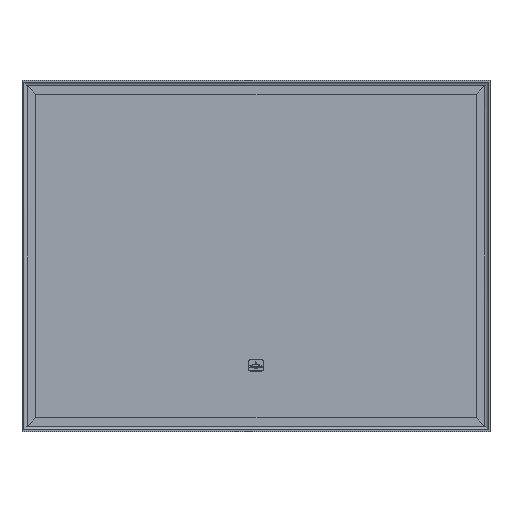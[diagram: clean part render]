
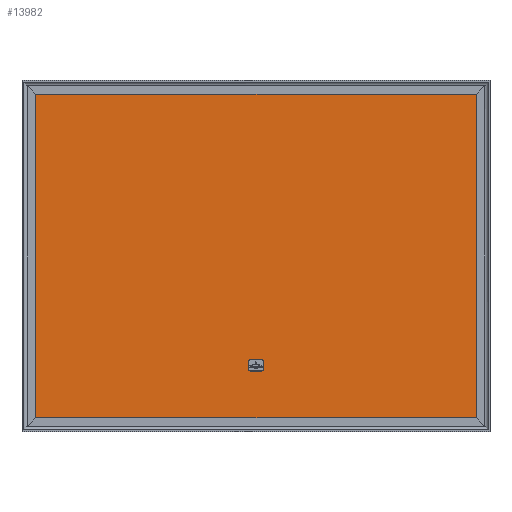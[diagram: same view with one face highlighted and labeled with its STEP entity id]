
A CAD part, front view. The second image highlights one B-rep face of the part: STEP entity #13982.
In plain terms, the highlighted planar face has unit normal (0, -1, 0).
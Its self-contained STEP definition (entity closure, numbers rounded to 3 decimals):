
#316=LINE('',#20332,#1891);
#324=LINE('',#20347,#1899);
#343=LINE('',#20427,#1918);
#581=LINE('',#21110,#2156);
#582=LINE('',#21112,#2157);
#583=LINE('',#21114,#2158);
#584=LINE('',#21116,#2159);
#585=LINE('',#21120,#2160);
#1891=VECTOR('',#16311,691.);
#1899=VECTOR('',#16323,691.);
#1918=VECTOR('',#16398,15.086);
#2156=VECTOR('',#17024,942.);
#2157=VECTOR('',#17027,942.);
#2158=VECTOR('',#17028,23.571);
#2159=VECTOR('',#17029,23.571);
#2160=VECTOR('',#17032,15.086);
#3439=PLANE('',#14972);
#3930=FACE_BOUND('',#5124,.T.);
#4266=FACE_OUTER_BOUND('',#5123,.T.);
#5123=EDGE_LOOP('',(#10613,#10614,#10615,#10616));
#5124=EDGE_LOOP('',(#10617,#10618,#10619,#10620,#10621,#10622,#10623,#10624));
#5858=CIRCLE('',#14775,4.714);
#5860=CIRCLE('',#14779,4.714);
#5935=CIRCLE('',#14973,4.714);
#5936=CIRCLE('',#14974,4.714);
#6357=VERTEX_POINT('',#20328);
#6359=VERTEX_POINT('',#20331);
#6362=VERTEX_POINT('',#20341);
#6364=VERTEX_POINT('',#20345);
#6393=VERTEX_POINT('',#20417);
#6394=VERTEX_POINT('',#20418);
#6397=VERTEX_POINT('',#20426);
#6399=VERTEX_POINT('',#20432);
#6609=VERTEX_POINT('',#21113);
#6610=VERTEX_POINT('',#21115);
#6611=VERTEX_POINT('',#21117);
#6612=VERTEX_POINT('',#21119);
#7784=EDGE_CURVE('',#6357,#6359,#316,.T.);
#7792=EDGE_CURVE('',#6364,#6362,#324,.T.);
#7823=EDGE_CURVE('',#6393,#6394,#5858,.T.);
#7827=EDGE_CURVE('',#6394,#6397,#343,.T.);
#7830=EDGE_CURVE('',#6397,#6399,#5860,.T.);
#8145=EDGE_CURVE('',#6362,#6357,#581,.T.);
#8146=EDGE_CURVE('',#6359,#6364,#582,.T.);
#8147=EDGE_CURVE('',#6609,#6393,#583,.T.);
#8148=EDGE_CURVE('',#6399,#6610,#584,.T.);
#8149=EDGE_CURVE('',#6610,#6611,#5935,.T.);
#8150=EDGE_CURVE('',#6611,#6612,#585,.T.);
#8151=EDGE_CURVE('',#6612,#6609,#5936,.T.);
#10613=ORIENTED_EDGE('',*,*,#8145,.F.);
#10614=ORIENTED_EDGE('',*,*,#7792,.F.);
#10615=ORIENTED_EDGE('',*,*,#8146,.F.);
#10616=ORIENTED_EDGE('',*,*,#7784,.F.);
#10617=ORIENTED_EDGE('',*,*,#8147,.T.);
#10618=ORIENTED_EDGE('',*,*,#7823,.T.);
#10619=ORIENTED_EDGE('',*,*,#7827,.T.);
#10620=ORIENTED_EDGE('',*,*,#7830,.T.);
#10621=ORIENTED_EDGE('',*,*,#8148,.T.);
#10622=ORIENTED_EDGE('',*,*,#8149,.T.);
#10623=ORIENTED_EDGE('',*,*,#8150,.T.);
#10624=ORIENTED_EDGE('',*,*,#8151,.T.);
#13982=ADVANCED_FACE('',(#4266,#3930),#3439,.F.);
#14775=AXIS2_PLACEMENT_3D('',#20419,#16390,#16391);
#14779=AXIS2_PLACEMENT_3D('',#20433,#16403,#16404);
#14972=AXIS2_PLACEMENT_3D('',#21111,#17025,#17026);
#14973=AXIS2_PLACEMENT_3D('',#21118,#17030,#17031);
#14974=AXIS2_PLACEMENT_3D('',#21121,#17033,#17034);
#16311=DIRECTION('',(0.,0.,-1.));
#16323=DIRECTION('',(0.,0.,1.));
#16390=DIRECTION('center_axis',(0.,1.,0.));
#16391=DIRECTION('ref_axis',(1.,0.,0.));
#16398=DIRECTION('',(0.,0.,-1.));
#16403=DIRECTION('center_axis',(0.,1.,0.));
#16404=DIRECTION('ref_axis',(0.,0.,-1.));
#17024=DIRECTION('',(1.,0.,0.));
#17025=DIRECTION('center_axis',(0.,1.,0.));
#17026=DIRECTION('ref_axis',(-1.,0.,0.));
#17027=DIRECTION('',(-1.,0.,0.));
#17028=DIRECTION('',(1.,0.,0.));
#17029=DIRECTION('',(-1.,0.,0.));
#17030=DIRECTION('center_axis',(0.,1.,0.));
#17031=DIRECTION('ref_axis',(-1.,0.,0.));
#17032=DIRECTION('',(0.,0.,1.));
#17033=DIRECTION('center_axis',(0.,1.,0.));
#17034=DIRECTION('ref_axis',(0.,0.,1.));
#20328=CARTESIAN_POINT('',(471.,5.75,720.5));
#20331=CARTESIAN_POINT('',(471.,5.75,29.5));
#20332=CARTESIAN_POINT('',(471.,5.75,548.));
#20341=CARTESIAN_POINT('',(-471.,5.75,720.5));
#20345=CARTESIAN_POINT('',(-471.,5.75,29.5));
#20347=CARTESIAN_POINT('',(-471.,5.75,202.));
#20417=CARTESIAN_POINT('',(11.786,5.75,153.514));
#20418=CARTESIAN_POINT('',(16.5,5.75,148.8));
#20419=CARTESIAN_POINT('Origin',(11.786,5.75,148.8));
#20426=CARTESIAN_POINT('',(16.5,5.75,133.714));
#20427=CARTESIAN_POINT('',(16.5,5.75,261.9));
#20432=CARTESIAN_POINT('',(11.786,5.75,129.));
#20433=CARTESIAN_POINT('Origin',(11.786,5.75,133.714));
#21110=CARTESIAN_POINT('',(-85.75,5.75,720.5));
#21111=CARTESIAN_POINT('Origin',(0.,5.75,
375.));
#21112=CARTESIAN_POINT('',(285.75,5.75,29.5));
#21113=CARTESIAN_POINT('',(-11.786,5.75,153.514));
#21114=CARTESIAN_POINT('',(-5.893,5.75,153.514));
#21115=CARTESIAN_POINT('',(-11.786,5.75,129.));
#21116=CARTESIAN_POINT('',(5.893,5.75,129.));
#21117=CARTESIAN_POINT('',(-16.5,5.75,133.714));
#21118=CARTESIAN_POINT('Origin',(-11.786,5.75,133.714));
#21119=CARTESIAN_POINT('',(-16.5,5.75,148.8));
#21120=CARTESIAN_POINT('',(-16.5,5.75,254.357));
#21121=CARTESIAN_POINT('Origin',(-11.786,5.75,148.8));
